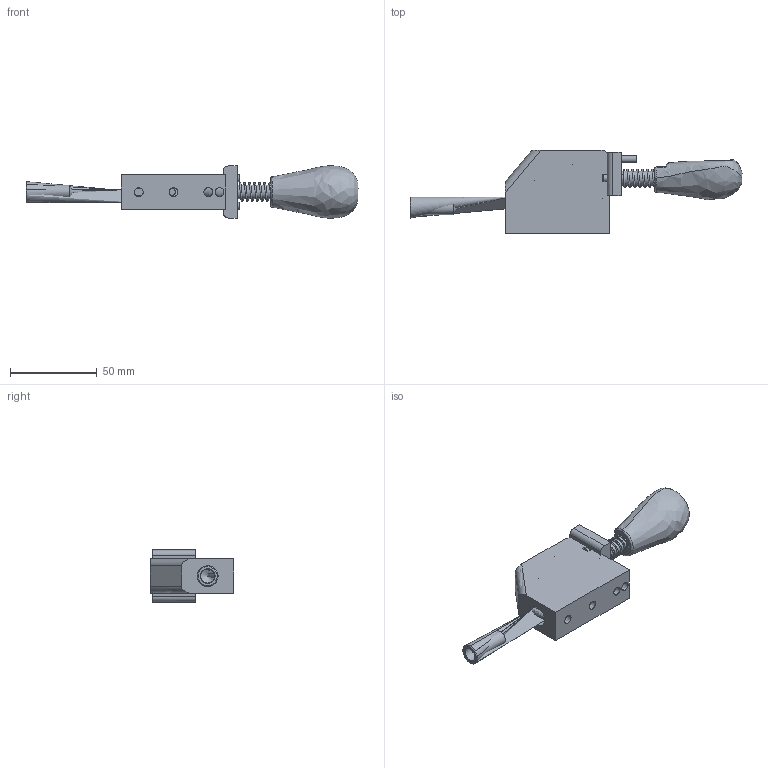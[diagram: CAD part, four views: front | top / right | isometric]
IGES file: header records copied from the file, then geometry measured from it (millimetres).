
Global section: file name: YSP-40ST-L-CLAMP; native system: Autodesk Inventor 2019; preprocessor: unknown; author: 桶田 勝弘,,  11,0; organization: 20171006.070826; date: 20240514.163456; units: millimetre
Bounding box: 191.25 x 48 x 30.18 mm (x, y, z)
Volume: 78748.2 mm3; surface area: 33993.8 mm2
Topology: 10 solids, 10 shells, 229 faces, 623 edges, 412 vertices
Faces by surface type: bspline 229
